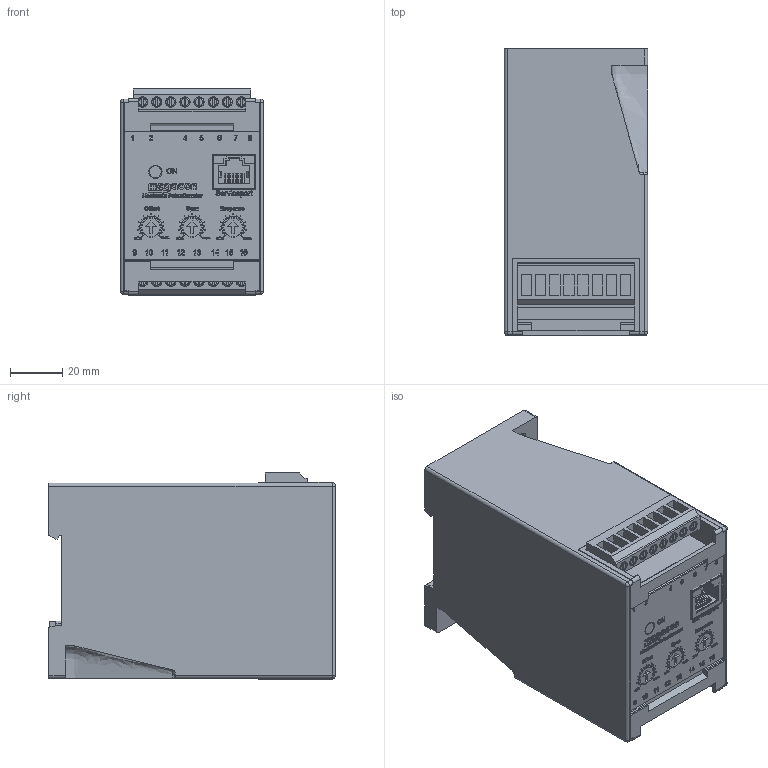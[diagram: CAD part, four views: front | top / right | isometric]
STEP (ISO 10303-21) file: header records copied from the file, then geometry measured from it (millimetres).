
FILE_DESCRIPTION(/* description */ (''),/* implementation_level */ '2;1');
FILE_NAME(/* name */ 'MX856x2 v2.step',/* time_stamp */ '2024-11-12T13:37:20Z',/* author */ (''),/* organization */ (''),/* preprocessor_version */ 'ST-DEVELOPER v20',/* originating_system */ 'Autodesk Translation Framework v13.20.0.188',/* authorisation */ '');
FILE_SCHEMA (('AUTOMOTIVE_DESIGN { 1 0 10303 214 3 1 1 }'));
Products named in the file (6): MX856x2; 414124_stp; 053870_stp; 014415; smt-5ja-1x1-8p8c-s-ext; TH-Screw terminals
Assembly tree (7 placements, depth 2):
  MX856x2
    414124_stp
    053870_stp  x2
    014415
    smt-5ja-1x1-8p8c-s-ext
    TH-Screw terminals  x2
Bounding box: 55 x 110 x 79.1 mm (x, y, z)
Volume: 84145.2 mm3; surface area: 95685.4 mm2
Topology: 44 solids, 44 shells, 3570 faces, 9580 edges, 6280 vertices
Faces by surface type: plane 1979, bspline 1288, cylinder 266, cone 17, torus 16, sphere 4
Full cylindrical faces by diameter (mm): 1.171 x1, 2.355 x1, 3.06 x1, 3.2 x1, 4 x16, 4.6 x5, 5.1 x1, 7 x3, 7.5 x3
Entity records: 122638 total; most frequent: CARTESIAN_POINT 48381, ORIENTED_EDGE 17710, DIRECTION 10796, EDGE_CURVE 8855, VERTEX_POINT 5806, LINE 5686, VECTOR 5686, EDGE_LOOP 3487
